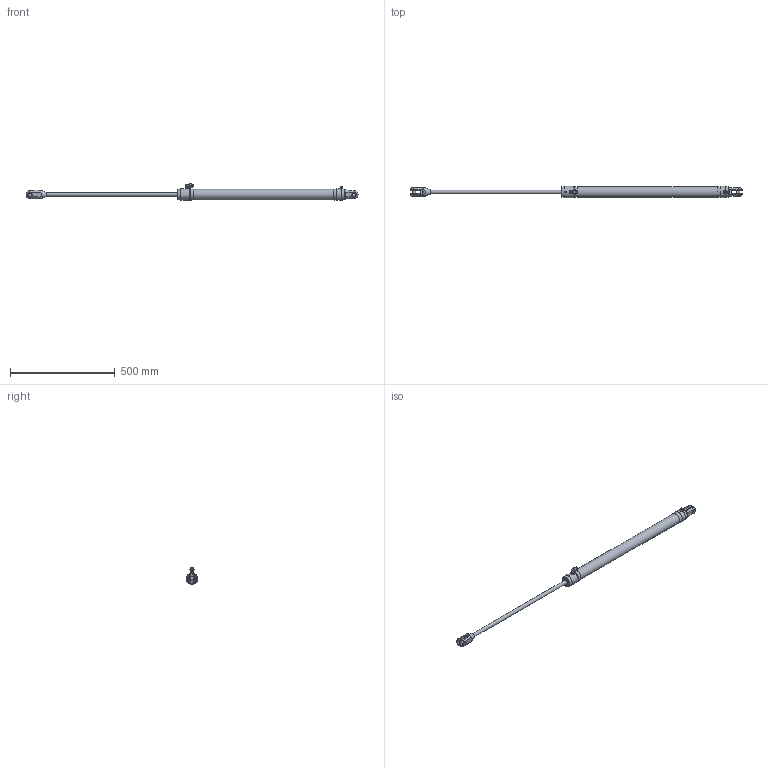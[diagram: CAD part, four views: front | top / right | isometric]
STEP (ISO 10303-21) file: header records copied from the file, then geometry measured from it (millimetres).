
FILE_DESCRIPTION(/* description */ (''),/* implementation_level */ '2;1');
FILE_NAME(/* name */ 'Q:\AA BRAND HYDRAULICS\HYDRAULICS FAMILY DIRECTORY\HYDRAULICS\CYLINDERS\RAMS\ALUMINIUM - STANDARD SINGLE ACTING (-0006 To -0260)\RSA-0012-S0625-NP-71\RSA-0012-S0625-NP-71 (Open).stp',/* time_stamp */ '2017-11-30T10:03:20+00:00',/* author */ ('Lorena'),/* organization */ (''),/* preprocessor_version */ 'ST-DEVELOPER v16.13',/* originating_system */ 'Autodesk Inventor 2018',/* authorisation */ '');
FILE_SCHEMA (('AUTOMOTIVE_DESIGN { 1 0 10303 214 3 1 1 }'));
Length unit declared in the file: millimetre
Products named in the file (1): RSA-0012-S0625-NP-71 (Open)
Bounding box: 1582.15 x 53.8 x 78.12 mm (x, y, z)
Volume: 1942198.6 mm3; surface area: 200280 mm2
Topology: 1 solids, 4 shells, 1605 faces, 4246 edges, 2800 vertices
Faces by surface type: plane 886, bspline 572, cylinder 81, cone 57, torus 5, sphere 4
Full cylindrical faces by diameter (mm): 3.5 x1, 4 x1, 4.2 x2, 4.4 x1, 5 x2, 6 x2, 6.6 x2, 7 x1, 7.728 x1, 8.728 x1, 8.8 x2, 9 x1, 9.728 x2, 10 x2, 11.11 x1, 11.8 x2, 12 x3, 13 x1, 15.1 x2, 15.88 x2, 18 x2, 19.85 x2, 50.8 x1, 53.8 x4
Entity records: 56207 total; most frequent: CARTESIAN_POINT 19199, ORIENTED_EDGE 8236, DIRECTION 5258, EDGE_CURVE 4118, VERTEX_POINT 2762, LINE 2652, VECTOR 2652, EDGE_LOOP 1851
